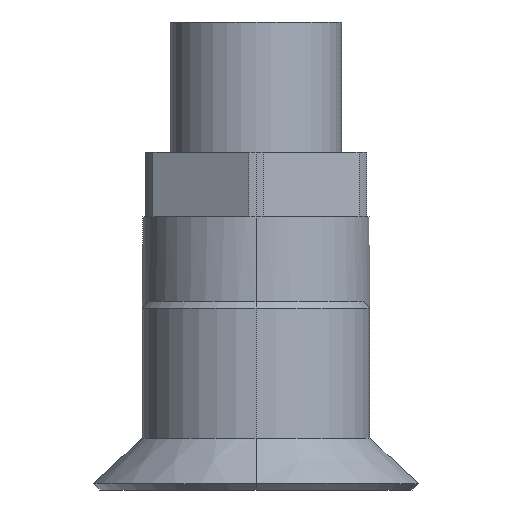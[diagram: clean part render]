
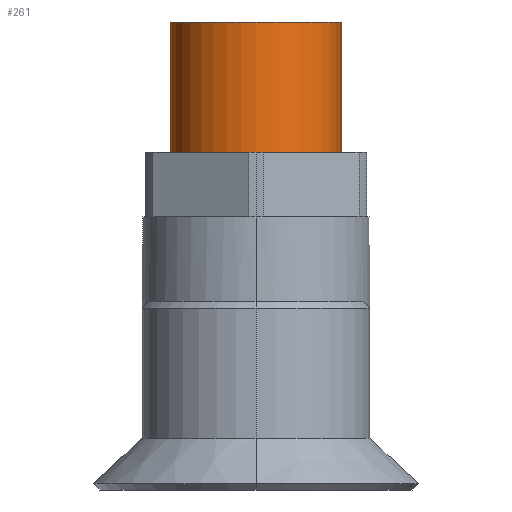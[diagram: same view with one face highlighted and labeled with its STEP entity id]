
A CAD part, left-side view. The second image highlights one B-rep face of the part: STEP entity #261.
In plain terms, the highlighted cylindrical face has radius 6.58 mm (diameter 13.16 mm), a partial arc.
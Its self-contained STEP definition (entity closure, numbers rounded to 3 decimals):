
#261=ADVANCED_FACE('NONE',(#546),#547,.T.);
#546=FACE_OUTER_BOUND('',#855,.T.);
#547=CYLINDRICAL_SURFACE('',#856,6.58);
#855=EDGE_LOOP('',(#1551,#1552,#1553,#1554));
#856=AXIS2_PLACEMENT_3D('',#1555,#1556,#1557);
#1551=ORIENTED_EDGE('',*,*,#1986,.F.);
#1552=ORIENTED_EDGE('',*,*,#1989,.T.);
#1553=ORIENTED_EDGE('',*,*,#2019,.T.);
#1554=ORIENTED_EDGE('',*,*,#1990,.F.);
#1555=CARTESIAN_POINT('',(0.,0.,10.0));
#1556=DIRECTION('',(0.,0.,-1.0));
#1557=DIRECTION('',(0.,-1.0,0.));
#1986=EDGE_CURVE('NONE',#2407,#2406,#2409,.T.);
#1989=EDGE_CURVE('NONE',#2407,#2412,#2413,.T.);
#1990=EDGE_CURVE('NONE',#2406,#2414,#2415,.T.);
#2019=EDGE_CURVE('NONE',#2412,#2414,#2446,.T.);
#2406=VERTEX_POINT('NONE',#2986);
#2407=VERTEX_POINT('NONE',#2987);
#2409=CIRCLE('',#2989,6.58);
#2412=VERTEX_POINT('NONE',#2992);
#2413=LINE('',#2993,#2994);
#2414=VERTEX_POINT('NONE',#2995);
#2415=LINE('',#2996,#2997);
#2446=CIRCLE('',#3047,6.58);
#2986=CARTESIAN_POINT('',(0.,-6.58,10.0));
#2987=CARTESIAN_POINT('',(0.,6.58,10.0));
#2989=AXIS2_PLACEMENT_3D('',#3429,#3430,#3431);
#2992=CARTESIAN_POINT('',(0.,6.58,0.));
#2993=CARTESIAN_POINT('',(0.,6.58,10.0));
#2994=VECTOR('',#3435,1000.0);
#2995=CARTESIAN_POINT('',(0.,-6.58,0.));
#2996=CARTESIAN_POINT('',(0.,-6.58,10.0));
#2997=VECTOR('',#3436,1000.0);
#3047=AXIS2_PLACEMENT_3D('',#3462,#3463,#3464);
#3429=CARTESIAN_POINT('',(0.,0.,10.0));
#3430=DIRECTION('',(0.,0.,1.0));
#3431=DIRECTION('',(0.,1.0,0.0));
#3435=DIRECTION('',(0.,0.,-1.0));
#3436=DIRECTION('',(0.,0.,-1.0));
#3462=CARTESIAN_POINT('',(0.,0.,0.0));
#3463=DIRECTION('',(0.,0.,1.0));
#3464=DIRECTION('',(0.,-1.0,0.));
